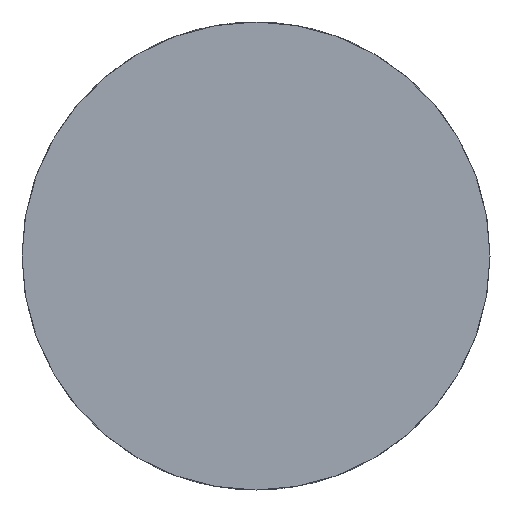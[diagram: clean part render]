
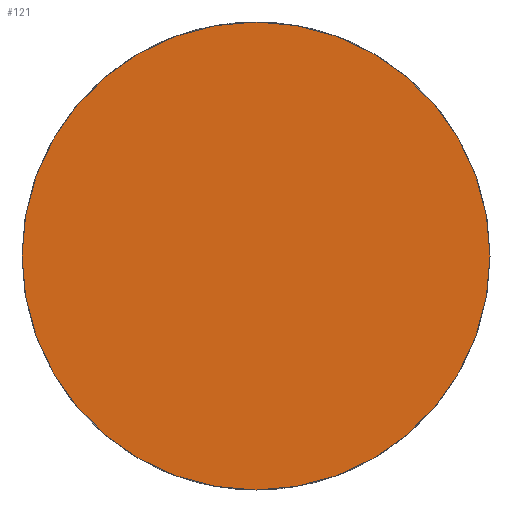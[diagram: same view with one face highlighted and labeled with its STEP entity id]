
A CAD part, front view. The second image highlights one B-rep face of the part: STEP entity #121.
In plain terms, the highlighted planar face has unit normal (0, -1, 0).
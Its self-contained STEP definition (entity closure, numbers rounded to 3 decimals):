
#4 = AXIS2_PLACEMENT_3D ( 'NONE', #301, #150, #58 ) ;
#40 = DIRECTION ( 'NONE',  ( 1., 0., 0. ) ) ;
#45 = VERTEX_POINT ( 'NONE', #104 ) ;
#48 = CARTESIAN_POINT ( 'NONE',  ( 0., 0., 0. ) ) ;
#58 = DIRECTION ( 'NONE',  ( -1., 0., 0. ) ) ;
#68 = PLANE ( 'NONE',  #368 ) ;
#72 = DIRECTION ( 'NONE',  ( 0., 1., 0. ) ) ;
#79 = CARTESIAN_POINT ( 'NONE',  ( -3., 0., 0. ) ) ;
#104 = CARTESIAN_POINT ( 'NONE',  ( 3., 0., 0. ) ) ;
#121 = ADVANCED_FACE ( 'NONE', ( #349 ), #68, .F. ) ;
#150 = DIRECTION ( 'NONE',  ( 0., 1., 0. ) ) ;
#164 = CARTESIAN_POINT ( 'NONE',  ( 0., 0., 0. ) ) ;
#187 = CIRCLE ( 'NONE', #395, 3. ) ;
#213 = DIRECTION ( 'NONE',  ( 0., 1., 0. ) ) ;
#273 = EDGE_LOOP ( 'NONE', ( #299, #306 ) ) ;
#285 = EDGE_CURVE ( 'NONE', #45, #325, #187, .T. ) ;
#299 = ORIENTED_EDGE ( 'NONE', *, *, #372, .F. ) ;
#301 = CARTESIAN_POINT ( 'NONE',  ( 0., 0., 0. ) ) ;
#306 = ORIENTED_EDGE ( 'NONE', *, *, #285, .F. ) ;
#312 = CIRCLE ( 'NONE', #4, 3. ) ;
#325 = VERTEX_POINT ( 'NONE', #79 ) ;
#349 = FACE_OUTER_BOUND ( 'NONE', #273, .T. ) ;
#358 = DIRECTION ( 'NONE',  ( 1., 0., 0. ) ) ;
#368 = AXIS2_PLACEMENT_3D ( 'NONE', #164, #72, #40 ) ;
#372 = EDGE_CURVE ( 'NONE', #325, #45, #312, .T. ) ;
#395 = AXIS2_PLACEMENT_3D ( 'NONE', #48, #213, #358 ) ;
